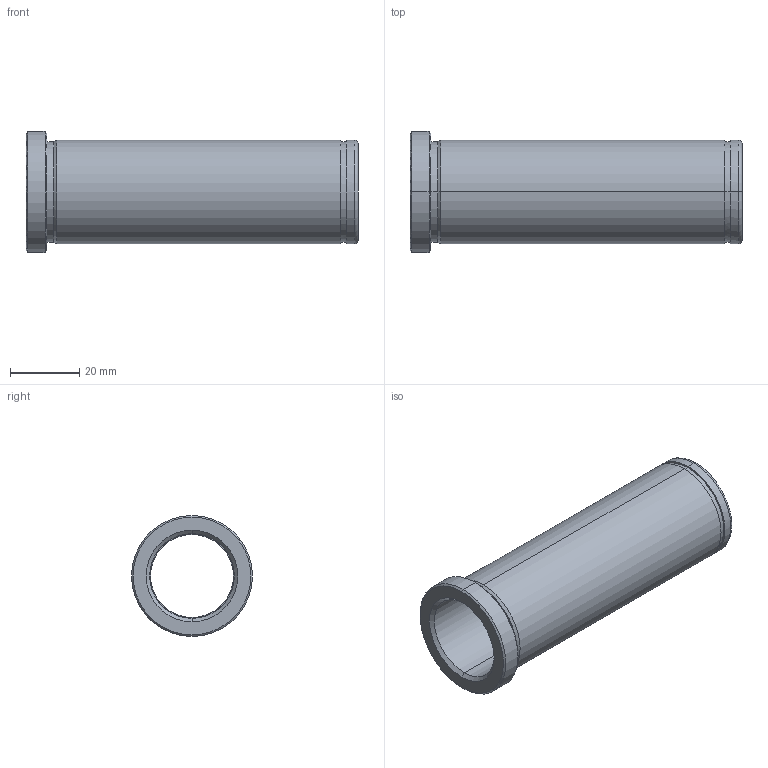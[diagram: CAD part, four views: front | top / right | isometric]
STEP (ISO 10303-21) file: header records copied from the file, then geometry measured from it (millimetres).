
FILE_DESCRIPTION(('CATIA V5 STEP Exchange'),'2;1');
FILE_NAME('C:\Users\Utente\Desktop\IO LAVORO\3D X SITO CF\X SITO\PLASTICA\553\553-24X96.stp','2021-05-25T18:18:10+00:00',('none'),('none'),'CATIA Version 5 Release 20 GA (IN-10)','CATIA V5 STEP AP203','none');
FILE_SCHEMA(('CONFIG_CONTROL_DESIGN'));
Length unit declared in the file: millimetre
Products named in the file (1): 553-24X96
Bounding box: 96 x 35 x 35 mm (x, y, z)
Volume: 25268.4 mm3; surface area: 17372.6 mm2
Topology: 1 solids, 1 shells, 32 faces, 102 edges, 76 vertices
Faces by surface type: cylinder 14, cone 8, plane 6, torus 4
Entity records: 1334 total; most frequent: CARTESIAN_POINT 389, ORIENTED_EDGE 204, DIRECTION 152, EDGE_CURVE 102, AXIS2_PLACEMENT_3D 99, VERTEX_POINT 76, CIRCLE 66, EDGE_LOOP 38
